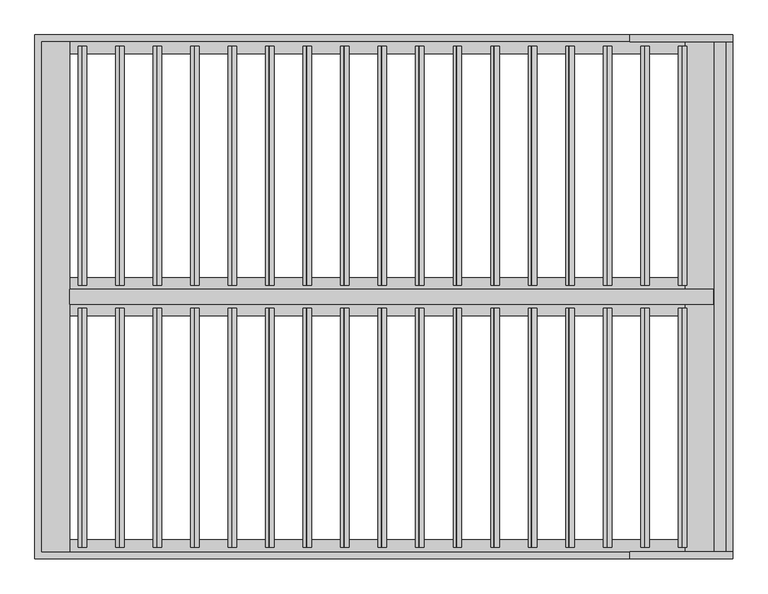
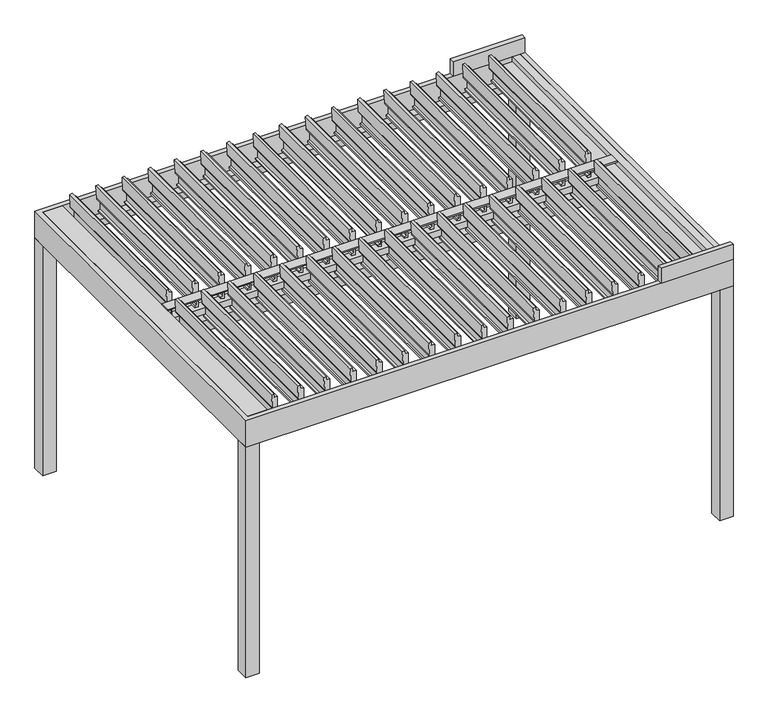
"""IFC4 building model written with IfcOpenShell, lengths in millimetres: proxy geometry, Renson_Algarve_Single Unit With Intermediate Beam : Algarve - Single Unit With Intermediate Beam."""

from ifc_helpers import new_model, si_unit, point, frame, frame_2d, origin, origin_with_axes, place, context, project, spatial, polyline, circle_curve, trimmed, segment, composite_curve, outline, extrude, faceted_brep, source, transform, mapped, element, save


def generic_models_74493efa(model_context):
    return source(origin(), model_context, "Body", "SolidModel", [
        extrude(outline(composite_curve([segment(polyline([(2299.449345, 1521.8120717), (2301.8694547, 1494.1500918), (2330.7047051, 1492.7650354), (2327.2673741, 1473.2709621), (2217.2702592, 1478.5545024)]), True, "CONTINUOUS"), segment(trimmed(circle_curve(frame_2d((2217.9899311, 1493.5372282)), 15.0), [point((2217.2702592, 1478.5545024))], [point((2203.2178148, 1490.9325056))], False, "CARTESIAN"), True, "CONTINUOUS"), segment(polyline([(2203.2178148, 1490.9325056), (2199.8271235, 1510.1620717), (2112.0913475, 1510.1620717), (2109.0798901, 1493.083248), (2093.8029196, 1493.8170536), (2091.3536729, 1521.8120717), (2299.449345, 1521.8120717)]), True, "CONTINUOUS")], self_intersect=False)), frame((0.0, -2185.0, 0.0), z_axis=(0.0, 1.0, 0.0), x_axis=(0.0, 0.0, 1.0)), (0.0, 0.0, 1.0), 1370.0),
        extrude(outline(composite_curve([segment(polyline([(2299.449345, 1306.8012669), (2301.8694547, 1279.139287), (2330.7047051, 1277.7542306), (2327.2673741, 1258.2601573), (2217.2702592, 1263.5436977)]), True, "CONTINUOUS"), segment(trimmed(circle_curve(frame_2d((2217.9899311, 1278.5264234)), 15.0), [point((2217.2702592, 1263.5436977))], [point((2203.2178148, 1275.9217008))], False, "CARTESIAN"), True, "CONTINUOUS"), segment(polyline([(2203.2178148, 1275.9217008), (2199.8271235, 1295.1512669), (2112.0913475, 1295.1512669), (2109.0798901, 1278.0724433), (2093.8029196, 1278.8062488), (2091.3536729, 1306.8012669), (2299.449345, 1306.8012669)]), True, "CONTINUOUS")], self_intersect=False)), frame((0.0, -2185.0, 0.0), z_axis=(0.0, 1.0, 0.0), x_axis=(0.0, 0.0, 1.0)), (0.0, 0.0, 1.0), 1370.0),
        extrude(outline(composite_curve([segment(polyline([(2299.449345, 1091.7904622), (2301.8694547, 1064.1284822), (2330.7047051, 1062.7434258), (2327.2673741, 1043.2493526), (2217.2702592, 1048.5328929)]), True, "CONTINUOUS"), segment(trimmed(circle_curve(frame_2d((2217.9899311, 1063.5156187)), 15.0), [point((2217.2702592, 1048.5328929))], [point((2203.2178148, 1060.910896))], False, "CARTESIAN"), True, "CONTINUOUS"), segment(polyline([(2203.2178148, 1060.910896), (2199.8271235, 1080.1404622), (2112.0913475, 1080.1404622), (2109.0798901, 1063.0616385), (2093.8029196, 1063.795444), (2091.3536729, 1091.7904622), (2299.449345, 1091.7904622)]), True, "CONTINUOUS")], self_intersect=False)), frame((0.0, -2185.0, 0.0), z_axis=(0.0, 1.0, 0.0), x_axis=(0.0, 0.0, 1.0)), (0.0, 0.0, 1.0), 1370.0),
        extrude(outline(composite_curve([segment(polyline([(2299.449345, 876.7796574), (2301.8694547, 849.1176774), (2330.7047051, 847.732621), (2327.2673741, 828.2385478), (2217.2702592, 833.5220881)]), True, "CONTINUOUS"), segment(trimmed(circle_curve(frame_2d((2217.9899311, 848.5048139)), 15.0), [point((2217.2702592, 833.5220881))], [point((2203.2178148, 845.9000912))], False, "CARTESIAN"), True, "CONTINUOUS"), segment(polyline([(2203.2178148, 845.9000912), (2199.8271235, 865.1296574), (2112.0913475, 865.1296574), (2109.0798901, 848.0508337), (2093.8029196, 848.7846392), (2091.3536729, 876.7796574), (2299.449345, 876.7796574)]), True, "CONTINUOUS")], self_intersect=False)), frame((0.0, -2185.0, 0.0), z_axis=(0.0, 1.0, 0.0), x_axis=(0.0, 0.0, 1.0)), (0.0, 0.0, 1.0), 1370.0),
        extrude(outline(composite_curve([segment(polyline([(2299.449345, 661.7688526), (2301.8694547, 634.1068726), (2330.7047051, 632.7218162), (2327.2673741, 613.227743), (2217.2702592, 618.5112833)]), True, "CONTINUOUS"), segment(trimmed(circle_curve(frame_2d((2217.9899311, 633.4940091)), 15.0), [point((2217.2702592, 618.5112833))], [point((2203.2178148, 630.8892864))], False, "CARTESIAN"), True, "CONTINUOUS"), segment(polyline([(2203.2178148, 630.8892864), (2199.8271235, 650.1188526), (2112.0913475, 650.1188526), (2109.0798901, 633.0400289), (2093.8029196, 633.7738344), (2091.3536729, 661.7688526), (2299.449345, 661.7688526)]), True, "CONTINUOUS")], self_intersect=False)), frame((0.0, -2185.0, 0.0), z_axis=(0.0, 1.0, 0.0), x_axis=(0.0, 0.0, 1.0)), (0.0, 0.0, 1.0), 1370.0),
        extrude(outline(composite_curve([segment(polyline([(2299.449345, 446.7580478), (2301.8694547, 419.0960679), (2330.7047051, 417.7110115), (2327.2673741, 398.2169382), (2217.2702592, 403.5004785)]), True, "CONTINUOUS"), segment(trimmed(circle_curve(frame_2d((2217.9899311, 418.4832043)), 15.0), [point((2217.2702592, 403.5004785))], [point((2203.2178148, 415.8784817))], False, "CARTESIAN"), True, "CONTINUOUS"), segment(polyline([(2203.2178148, 415.8784817), (2199.8271235, 435.1080478), (2112.0913475, 435.1080478), (2109.0798901, 418.0292241), (2093.8029196, 418.7630297), (2091.3536729, 446.7580478), (2299.449345, 446.7580478)]), True, "CONTINUOUS")], self_intersect=False)), frame((0.0, -2185.0, 0.0), z_axis=(0.0, 1.0, 0.0), x_axis=(0.0, 0.0, 1.0)), (0.0, 0.0, 1.0), 1370.0),
        extrude(outline(composite_curve([segment(polyline([(2299.449345, 231.747243), (2301.8694547, 204.0852631), (2330.7047051, 202.7002067), (2327.2673741, 183.2061334), (2217.2702592, 188.4896737)]), True, "CONTINUOUS"), segment(trimmed(circle_curve(frame_2d((2217.9899311, 203.4723995)), 15.0), [point((2217.2702592, 188.4896737))], [point((2203.2178148, 200.8676769))], False, "CARTESIAN"), True, "CONTINUOUS"), segment(polyline([(2203.2178148, 200.8676769), (2199.8271235, 220.097243), (2112.0913475, 220.097243), (2109.0798901, 203.0184194), (2093.8029196, 203.7522249), (2091.3536729, 231.747243), (2299.449345, 231.747243)]), True, "CONTINUOUS")], self_intersect=False)), frame((0.0, -2185.0, 0.0), z_axis=(0.0, 1.0, 0.0), x_axis=(0.0, 0.0, 1.0)), (0.0, 0.0, 1.0), 1370.0),
        extrude(outline(composite_curve([segment(polyline([(2299.449345, 16.7364383), (2301.8694547, -10.9255417), (2330.7047051, -12.3105981), (2327.2673741, -31.8046713), (2217.2702592, -26.521131)]), True, "CONTINUOUS"), segment(trimmed(circle_curve(frame_2d((2217.9899311, -11.5384052)), 15.0), [point((2217.2702592, -26.521131))], [point((2203.2178148, -14.1431279))], False, "CARTESIAN"), True, "CONTINUOUS"), segment(polyline([(2203.2178148, -14.1431279), (2199.8271235, 5.0864383), (2112.0913475, 5.0864383), (2109.0798901, -11.9923854), (2093.8029196, -11.2585799), (2091.3536729, 16.7364383), (2299.449345, 16.7364383)]), True, "CONTINUOUS")], self_intersect=False)), frame((0.0, -2185.0, 0.0), z_axis=(0.0, 1.0, 0.0), x_axis=(0.0, 0.0, 1.0)), (0.0, 0.0, 1.0), 1370.0),
        extrude(outline(composite_curve([segment(polyline([(2299.449345, -198.2743665), (2301.8694547, -225.9363465), (2330.7047051, -227.3214029), (2327.2673741, -246.8154761), (2217.2702592, -241.5319358)]), True, "CONTINUOUS"), segment(trimmed(circle_curve(frame_2d((2217.9899311, -226.54921)), 15.0), [point((2217.2702592, -241.5319358))], [point((2203.2178148, -229.1539327))], False, "CARTESIAN"), True, "CONTINUOUS"), segment(polyline([(2203.2178148, -229.1539327), (2199.8271235, -209.9243665), (2112.0913475, -209.9243665), (2109.0798901, -227.0031902), (2093.8029196, -226.2693847), (2091.3536729, -198.2743665), (2299.449345, -198.2743665)]), True, "CONTINUOUS")], self_intersect=False)), frame((0.0, -2185.0, 0.0), z_axis=(0.0, 1.0, 0.0), x_axis=(0.0, 0.0, 1.0)), (0.0, 0.0, 1.0), 1370.0),
        extrude(outline(composite_curve([segment(polyline([(2299.449345, -413.2851713), (2301.8694547, -440.9471513), (2330.7047051, -442.3322077), (2327.2673741, -461.8262809), (2217.2702592, -456.5427406)]), True, "CONTINUOUS"), segment(trimmed(circle_curve(frame_2d((2217.9899311, -441.5600148)), 15.0), [point((2217.2702592, -456.5427406))], [point((2203.2178148, -444.1647375))], False, "CARTESIAN"), True, "CONTINUOUS"), segment(polyline([(2203.2178148, -444.1647375), (2199.8271235, -424.9351713), (2112.0913475, -424.9351713), (2109.0798901, -442.013995), (2093.8029196, -441.2801895), (2091.3536729, -413.2851713), (2299.449345, -413.2851713)]), True, "CONTINUOUS")], self_intersect=False)), frame((0.0, -2185.0, 0.0), z_axis=(0.0, 1.0, 0.0), x_axis=(0.0, 0.0, 1.0)), (0.0, 0.0, 1.0), 1370.0),
        extrude(outline(composite_curve([segment(polyline([(2299.449345, -628.2959761), (2301.8694547, -655.9579561), (2330.7047051, -657.3430125), (2327.2673741, -676.8370857), (2217.2702592, -671.5535454)]), True, "CONTINUOUS"), segment(trimmed(circle_curve(frame_2d((2217.9899311, -656.5708196)), 15.0), [point((2217.2702592, -671.5535454))], [point((2203.2178148, -659.1755423))], False, "CARTESIAN"), True, "CONTINUOUS"), segment(polyline([(2203.2178148, -659.1755423), (2199.8271235, -639.9459761), (2112.0913475, -639.9459761), (2109.0798901, -657.0247998), (2093.8029196, -656.2909943), (2091.3536729, -628.2959761), (2299.449345, -628.2959761)]), True, "CONTINUOUS")], self_intersect=False)), frame((0.0, -2185.0, 0.0), z_axis=(0.0, 1.0, 0.0), x_axis=(0.0, 0.0, 1.0)), (0.0, 0.0, 1.0), 1370.0),
        extrude(outline(composite_curve([segment(polyline([(2299.449345, -843.3067809), (2301.8694547, -870.9687608), (2330.7047051, -872.3538172), (2327.2673741, -891.8478905), (2217.2702592, -886.5643502)]), True, "CONTINUOUS"), segment(trimmed(circle_curve(frame_2d((2217.9899311, -871.5816244)), 15.0), [point((2217.2702592, -886.5643502))], [point((2203.2178148, -874.186347))], False, "CARTESIAN"), True, "CONTINUOUS"), segment(polyline([(2203.2178148, -874.186347), (2199.8271235, -854.9567809), (2112.0913475, -854.9567809), (2109.0798901, -872.0356046), (2093.8029196, -871.301799), (2091.3536729, -843.3067809), (2299.449345, -843.3067809)]), True, "CONTINUOUS")], self_intersect=False)), frame((0.0, -2185.0, 0.0), z_axis=(0.0, 1.0, 0.0), x_axis=(0.0, 0.0, 1.0)), (0.0, 0.0, 1.0), 1370.0),
        extrude(outline(composite_curve([segment(polyline([(2299.449345, -1058.3175857), (2301.8694547, -1085.9795656), (2330.7047051, -1087.364622), (2327.2673741, -1106.8586953), (2217.2702592, -1101.5751549)]), True, "CONTINUOUS"), segment(trimmed(circle_curve(frame_2d((2217.9899311, -1086.5924291)), 15.0), [point((2217.2702592, -1101.5751549))], [point((2203.2178148, -1089.1971518))], False, "CARTESIAN"), True, "CONTINUOUS"), segment(polyline([(2203.2178148, -1089.1971518), (2199.8271235, -1069.9675857), (2112.0913475, -1069.9675857), (2109.0798901, -1087.0464093), (2093.8029196, -1086.3126038), (2091.3536729, -1058.3175857), (2299.449345, -1058.3175857)]), True, "CONTINUOUS")], self_intersect=False)), frame((0.0, -2185.0, 0.0), z_axis=(0.0, 1.0, 0.0), x_axis=(0.0, 0.0, 1.0)), (0.0, 0.0, 1.0), 1370.0),
        extrude(outline(composite_curve([segment(polyline([(2299.449345, -1273.3283904), (2301.8694547, -1300.9903704), (2330.7047051, -1302.3754268), (2327.2673741, -1321.8695), (2217.2702592, -1316.5859597)]), True, "CONTINUOUS"), segment(trimmed(circle_curve(frame_2d((2217.9899311, -1301.6032339)), 15.0), [point((2217.2702592, -1316.5859597))], [point((2203.2178148, -1304.2079566))], False, "CARTESIAN"), True, "CONTINUOUS"), segment(polyline([(2203.2178148, -1304.2079566), (2199.8271235, -1284.9783904), (2112.0913475, -1284.9783904), (2109.0798901, -1302.0572141), (2093.8029196, -1301.3234086), (2091.3536729, -1273.3283904), (2299.449345, -1273.3283904)]), True, "CONTINUOUS")], self_intersect=False)), frame((0.0, -2185.0, 0.0), z_axis=(0.0, 1.0, 0.0), x_axis=(0.0, 0.0, 1.0)), (0.0, 0.0, 1.0), 1370.0),
        extrude(outline(composite_curve([segment(polyline([(2299.449345, -1488.3391952), (2301.8694547, -1516.0011752), (2330.7047051, -1517.3862316), (2327.2673741, -1536.8803048), (2217.2702592, -1531.5967645)]), True, "CONTINUOUS"), segment(trimmed(circle_curve(frame_2d((2217.9899311, -1516.6140387)), 15.0), [point((2217.2702592, -1531.5967645))], [point((2203.2178148, -1519.2187614))], False, "CARTESIAN"), True, "CONTINUOUS"), segment(polyline([(2203.2178148, -1519.2187614), (2199.8271235, -1499.9891952), (2112.0913475, -1499.9891952), (2109.0798901, -1517.0680189), (2093.8029196, -1516.3342134), (2091.3536729, -1488.3391952), (2299.449345, -1488.3391952)]), True, "CONTINUOUS")], self_intersect=False)), frame((0.0, -2185.0, 0.0), z_axis=(0.0, 1.0, 0.0), x_axis=(0.0, 0.0, 1.0)), (0.0, 0.0, 1.0), 1370.0),
        extrude(outline(composite_curve([segment(polyline([(2299.449345, 1736.8228765), (2301.8694547, 1709.1608965), (2330.7047051, 1707.7758401), (2327.2673741, 1688.2817669), (2217.2702592, 1693.5653072)]), True, "CONTINUOUS"), segment(trimmed(circle_curve(frame_2d((2217.9899311, 1708.548033)), 15.0), [point((2217.2702592, 1693.5653072))], [point((2203.2178148, 1705.9433103))], False, "CARTESIAN"), True, "CONTINUOUS"), segment(polyline([(2203.2178148, 1705.9433103), (2199.8271235, 1725.1728765), (2112.0913475, 1725.1728765), (2109.0798901, 1708.0940528), (2093.8029196, 1708.8278583), (2091.3536729, 1736.8228765), (2299.449345, 1736.8228765)]), True, "CONTINUOUS")], self_intersect=False)), frame((0.0, -2185.0, 0.0), z_axis=(0.0, 1.0, 0.0), x_axis=(0.0, 0.0, 1.0)), (0.0, 0.0, 1.0), 1370.0),
        extrude(outline(composite_curve([segment(polyline([(2299.449345, -1703.35), (2301.8694547, -1731.01198), (2330.7047051, -1732.3970364), (2327.2673741, -1751.8911096), (2217.2702592, -1746.6075693)]), True, "CONTINUOUS"), segment(trimmed(circle_curve(frame_2d((2217.9899311, -1731.6248435)), 15.0), [point((2217.2702592, -1746.6075693))], [point((2203.2178148, -1734.2295662))], False, "CARTESIAN"), True, "CONTINUOUS"), segment(polyline([(2203.2178148, -1734.2295662), (2199.8271235, -1715.0), (2112.0913475, -1715.0), (2109.0798901, -1732.0788237), (2093.8029196, -1731.3450182), (2091.3536729, -1703.35), (2299.449345, -1703.35)]), True, "CONTINUOUS")], self_intersect=False)), frame((0.0, -2185.0, 0.0), z_axis=(0.0, 1.0, 0.0), x_axis=(0.0, 0.0, 1.0)), (0.0, 0.0, 1.0), 1370.0),
        extrude(outline(composite_curve([segment(polyline([(2299.449345, 1521.8120717), (2301.8694547, 1494.1500918), (2330.7047051, 1492.7650354), (2327.2673741, 1473.2709621), (2217.2702592, 1478.5545024)]), True, "CONTINUOUS"), segment(trimmed(circle_curve(frame_2d((2217.9899311, 1493.5372282)), 15.0), [point((2217.2702592, 1478.5545024))], [point((2203.2178148, 1490.9325056))], False, "CARTESIAN"), True, "CONTINUOUS"), segment(polyline([(2203.2178148, 1490.9325056), (2199.8271235, 1510.1620717), (2112.0913475, 1510.1620717), (2109.0798901, 1493.083248), (2093.8029196, 1493.8170536), (2091.3536729, 1521.8120717), (2299.449345, 1521.8120717)]), True, "CONTINUOUS")], self_intersect=False)), frame((0.0, -685.0, 0.0), z_axis=(0.0, 1.0, 0.0), x_axis=(0.0, 0.0, 1.0)), (0.0, 0.0, 1.0), 1370.0),
        extrude(outline(composite_curve([segment(polyline([(2299.449345, 1306.8012669), (2301.8694547, 1279.139287), (2330.7047051, 1277.7542306), (2327.2673741, 1258.2601573), (2217.2702592, 1263.5436977)]), True, "CONTINUOUS"), segment(trimmed(circle_curve(frame_2d((2217.9899311, 1278.5264234)), 15.0), [point((2217.2702592, 1263.5436977))], [point((2203.2178148, 1275.9217008))], False, "CARTESIAN"), True, "CONTINUOUS"), segment(polyline([(2203.2178148, 1275.9217008), (2199.8271235, 1295.1512669), (2112.0913475, 1295.1512669), (2109.0798901, 1278.0724433), (2093.8029196, 1278.8062488), (2091.3536729, 1306.8012669), (2299.449345, 1306.8012669)]), True, "CONTINUOUS")], self_intersect=False)), frame((0.0, -685.0, 0.0), z_axis=(0.0, 1.0, 0.0), x_axis=(0.0, 0.0, 1.0)), (0.0, 0.0, 1.0), 1370.0),
        extrude(outline(composite_curve([segment(polyline([(2299.449345, 1091.7904622), (2301.8694547, 1064.1284822), (2330.7047051, 1062.7434258), (2327.2673741, 1043.2493526), (2217.2702592, 1048.5328929)]), True, "CONTINUOUS"), segment(trimmed(circle_curve(frame_2d((2217.9899311, 1063.5156187)), 15.0), [point((2217.2702592, 1048.5328929))], [point((2203.2178148, 1060.910896))], False, "CARTESIAN"), True, "CONTINUOUS"), segment(polyline([(2203.2178148, 1060.910896), (2199.8271235, 1080.1404622), (2112.0913475, 1080.1404622), (2109.0798901, 1063.0616385), (2093.8029196, 1063.795444), (2091.3536729, 1091.7904622), (2299.449345, 1091.7904622)]), True, "CONTINUOUS")], self_intersect=False)), frame((0.0, -685.0, 0.0), z_axis=(0.0, 1.0, 0.0), x_axis=(0.0, 0.0, 1.0)), (0.0, 0.0, 1.0), 1370.0),
        extrude(outline(composite_curve([segment(polyline([(2299.449345, 876.7796574), (2301.8694547, 849.1176774), (2330.7047051, 847.732621), (2327.2673741, 828.2385478), (2217.2702592, 833.5220881)]), True, "CONTINUOUS"), segment(trimmed(circle_curve(frame_2d((2217.9899311, 848.5048139)), 15.0), [point((2217.2702592, 833.5220881))], [point((2203.2178148, 845.9000912))], False, "CARTESIAN"), True, "CONTINUOUS"), segment(polyline([(2203.2178148, 845.9000912), (2199.8271235, 865.1296574), (2112.0913475, 865.1296574), (2109.0798901, 848.0508337), (2093.8029196, 848.7846392), (2091.3536729, 876.7796574), (2299.449345, 876.7796574)]), True, "CONTINUOUS")], self_intersect=False)), frame((0.0, -685.0, 0.0), z_axis=(0.0, 1.0, 0.0), x_axis=(0.0, 0.0, 1.0)), (0.0, 0.0, 1.0), 1370.0),
        extrude(outline(composite_curve([segment(polyline([(2299.449345, 661.7688526), (2301.8694547, 634.1068726), (2330.7047051, 632.7218162), (2327.2673741, 613.227743), (2217.2702592, 618.5112833)]), True, "CONTINUOUS"), segment(trimmed(circle_curve(frame_2d((2217.9899311, 633.4940091)), 15.0), [point((2217.2702592, 618.5112833))], [point((2203.2178148, 630.8892864))], False, "CARTESIAN"), True, "CONTINUOUS"), segment(polyline([(2203.2178148, 630.8892864), (2199.8271235, 650.1188526), (2112.0913475, 650.1188526), (2109.0798901, 633.0400289), (2093.8029196, 633.7738344), (2091.3536729, 661.7688526), (2299.449345, 661.7688526)]), True, "CONTINUOUS")], self_intersect=False)), frame((0.0, -685.0, 0.0), z_axis=(0.0, 1.0, 0.0), x_axis=(0.0, 0.0, 1.0)), (0.0, 0.0, 1.0), 1370.0),
        extrude(outline(composite_curve([segment(polyline([(2299.449345, 446.7580478), (2301.8694547, 419.0960679), (2330.7047051, 417.7110115), (2327.2673741, 398.2169382), (2217.2702592, 403.5004785)]), True, "CONTINUOUS"), segment(trimmed(circle_curve(frame_2d((2217.9899311, 418.4832043)), 15.0), [point((2217.2702592, 403.5004785))], [point((2203.2178148, 415.8784817))], False, "CARTESIAN"), True, "CONTINUOUS"), segment(polyline([(2203.2178148, 415.8784817), (2199.8271235, 435.1080478), (2112.0913475, 435.1080478), (2109.0798901, 418.0292241), (2093.8029196, 418.7630297), (2091.3536729, 446.7580478), (2299.449345, 446.7580478)]), True, "CONTINUOUS")], self_intersect=False)), frame((0.0, -685.0, 0.0), z_axis=(0.0, 1.0, 0.0), x_axis=(0.0, 0.0, 1.0)), (0.0, 0.0, 1.0), 1370.0),
        extrude(outline(composite_curve([segment(polyline([(2299.449345, 231.747243), (2301.8694547, 204.0852631), (2330.7047051, 202.7002067), (2327.2673741, 183.2061334), (2217.2702592, 188.4896737)]), True, "CONTINUOUS"), segment(trimmed(circle_curve(frame_2d((2217.9899311, 203.4723995)), 15.0), [point((2217.2702592, 188.4896737))], [point((2203.2178148, 200.8676769))], False, "CARTESIAN"), True, "CONTINUOUS"), segment(polyline([(2203.2178148, 200.8676769), (2199.8271235, 220.097243), (2112.0913475, 220.097243), (2109.0798901, 203.0184194), (2093.8029196, 203.7522249), (2091.3536729, 231.747243), (2299.449345, 231.747243)]), True, "CONTINUOUS")], self_intersect=False)), frame((0.0, -685.0, 0.0), z_axis=(0.0, 1.0, 0.0), x_axis=(0.0, 0.0, 1.0)), (0.0, 0.0, 1.0), 1370.0),
        extrude(outline(composite_curve([segment(polyline([(2299.449345, 16.7364383), (2301.8694547, -10.9255417), (2330.7047051, -12.3105981), (2327.2673741, -31.8046713), (2217.2702592, -26.521131)]), True, "CONTINUOUS"), segment(trimmed(circle_curve(frame_2d((2217.9899311, -11.5384052)), 15.0), [point((2217.2702592, -26.521131))], [point((2203.2178148, -14.1431279))], False, "CARTESIAN"), True, "CONTINUOUS"), segment(polyline([(2203.2178148, -14.1431279), (2199.8271235, 5.0864383), (2112.0913475, 5.0864383), (2109.0798901, -11.9923854), (2093.8029196, -11.2585799), (2091.3536729, 16.7364383), (2299.449345, 16.7364383)]), True, "CONTINUOUS")], self_intersect=False)), frame((0.0, -685.0, 0.0), z_axis=(0.0, 1.0, 0.0), x_axis=(0.0, 0.0, 1.0)), (0.0, 0.0, 1.0), 1370.0),
        extrude(outline(composite_curve([segment(polyline([(2299.449345, -198.2743665), (2301.8694547, -225.9363465), (2330.7047051, -227.3214029), (2327.2673741, -246.8154761), (2217.2702592, -241.5319358)]), True, "CONTINUOUS"), segment(trimmed(circle_curve(frame_2d((2217.9899311, -226.54921)), 15.0), [point((2217.2702592, -241.5319358))], [point((2203.2178148, -229.1539327))], False, "CARTESIAN"), True, "CONTINUOUS"), segment(polyline([(2203.2178148, -229.1539327), (2199.8271235, -209.9243665), (2112.0913475, -209.9243665), (2109.0798901, -227.0031902), (2093.8029196, -226.2693847), (2091.3536729, -198.2743665), (2299.449345, -198.2743665)]), True, "CONTINUOUS")], self_intersect=False)), frame((0.0, -685.0, 0.0), z_axis=(0.0, 1.0, 0.0), x_axis=(0.0, 0.0, 1.0)), (0.0, 0.0, 1.0), 1370.0),
        extrude(outline(composite_curve([segment(polyline([(2299.449345, -413.2851713), (2301.8694547, -440.9471513), (2330.7047051, -442.3322077), (2327.2673741, -461.8262809), (2217.2702592, -456.5427406)]), True, "CONTINUOUS"), segment(trimmed(circle_curve(frame_2d((2217.9899311, -441.5600148)), 15.0), [point((2217.2702592, -456.5427406))], [point((2203.2178148, -444.1647375))], False, "CARTESIAN"), True, "CONTINUOUS"), segment(polyline([(2203.2178148, -444.1647375), (2199.8271235, -424.9351713), (2112.0913475, -424.9351713), (2109.0798901, -442.013995), (2093.8029196, -441.2801895), (2091.3536729, -413.2851713), (2299.449345, -413.2851713)]), True, "CONTINUOUS")], self_intersect=False)), frame((0.0, -685.0, 0.0), z_axis=(0.0, 1.0, 0.0), x_axis=(0.0, 0.0, 1.0)), (0.0, 0.0, 1.0), 1370.0),
        extrude(outline(composite_curve([segment(polyline([(2299.449345, -628.2959761), (2301.8694547, -655.9579561), (2330.7047051, -657.3430125), (2327.2673741, -676.8370857), (2217.2702592, -671.5535454)]), True, "CONTINUOUS"), segment(trimmed(circle_curve(frame_2d((2217.9899311, -656.5708196)), 15.0), [point((2217.2702592, -671.5535454))], [point((2203.2178148, -659.1755423))], False, "CARTESIAN"), True, "CONTINUOUS"), segment(polyline([(2203.2178148, -659.1755423), (2199.8271235, -639.9459761), (2112.0913475, -639.9459761), (2109.0798901, -657.0247998), (2093.8029196, -656.2909943), (2091.3536729, -628.2959761), (2299.449345, -628.2959761)]), True, "CONTINUOUS")], self_intersect=False)), frame((0.0, -685.0, 0.0), z_axis=(0.0, 1.0, 0.0), x_axis=(0.0, 0.0, 1.0)), (0.0, 0.0, 1.0), 1370.0),
        extrude(outline(composite_curve([segment(polyline([(2299.449345, -843.3067809), (2301.8694547, -870.9687608), (2330.7047051, -872.3538172), (2327.2673741, -891.8478905), (2217.2702592, -886.5643502)]), True, "CONTINUOUS"), segment(trimmed(circle_curve(frame_2d((2217.9899311, -871.5816244)), 15.0), [point((2217.2702592, -886.5643502))], [point((2203.2178148, -874.186347))], False, "CARTESIAN"), True, "CONTINUOUS"), segment(polyline([(2203.2178148, -874.186347), (2199.8271235, -854.9567809), (2112.0913475, -854.9567809), (2109.0798901, -872.0356046), (2093.8029196, -871.301799), (2091.3536729, -843.3067809), (2299.449345, -843.3067809)]), True, "CONTINUOUS")], self_intersect=False)), frame((0.0, -685.0, 0.0), z_axis=(0.0, 1.0, 0.0), x_axis=(0.0, 0.0, 1.0)), (0.0, 0.0, 1.0), 1370.0),
        extrude(outline(composite_curve([segment(polyline([(2299.449345, -1058.3175857), (2301.8694547, -1085.9795656), (2330.7047051, -1087.364622), (2327.2673741, -1106.8586953), (2217.2702592, -1101.5751549)]), True, "CONTINUOUS"), segment(trimmed(circle_curve(frame_2d((2217.9899311, -1086.5924291)), 15.0), [point((2217.2702592, -1101.5751549))], [point((2203.2178148, -1089.1971518))], False, "CARTESIAN"), True, "CONTINUOUS"), segment(polyline([(2203.2178148, -1089.1971518), (2199.8271235, -1069.9675857), (2112.0913475, -1069.9675857), (2109.0798901, -1087.0464093), (2093.8029196, -1086.3126038), (2091.3536729, -1058.3175857), (2299.449345, -1058.3175857)]), True, "CONTINUOUS")], self_intersect=False)), frame((0.0, -685.0, 0.0), z_axis=(0.0, 1.0, 0.0), x_axis=(0.0, 0.0, 1.0)), (0.0, 0.0, 1.0), 1370.0),
        extrude(outline(composite_curve([segment(polyline([(2299.449345, -1273.3283904), (2301.8694547, -1300.9903704), (2330.7047051, -1302.3754268), (2327.2673741, -1321.8695), (2217.2702592, -1316.5859597)]), True, "CONTINUOUS"), segment(trimmed(circle_curve(frame_2d((2217.9899311, -1301.6032339)), 15.0), [point((2217.2702592, -1316.5859597))], [point((2203.2178148, -1304.2079566))], False, "CARTESIAN"), True, "CONTINUOUS"), segment(polyline([(2203.2178148, -1304.2079566), (2199.8271235, -1284.9783904), (2112.0913475, -1284.9783904), (2109.0798901, -1302.0572141), (2093.8029196, -1301.3234086), (2091.3536729, -1273.3283904), (2299.449345, -1273.3283904)]), True, "CONTINUOUS")], self_intersect=False)), frame((0.0, -685.0, 0.0), z_axis=(0.0, 1.0, 0.0), x_axis=(0.0, 0.0, 1.0)), (0.0, 0.0, 1.0), 1370.0),
        extrude(outline(composite_curve([segment(polyline([(2299.449345, -1488.3391952), (2301.8694547, -1516.0011752), (2330.7047051, -1517.3862316), (2327.2673741, -1536.8803048), (2217.2702592, -1531.5967645)]), True, "CONTINUOUS"), segment(trimmed(circle_curve(frame_2d((2217.9899311, -1516.6140387)), 15.0), [point((2217.2702592, -1531.5967645))], [point((2203.2178148, -1519.2187614))], False, "CARTESIAN"), True, "CONTINUOUS"), segment(polyline([(2203.2178148, -1519.2187614), (2199.8271235, -1499.9891952), (2112.0913475, -1499.9891952), (2109.0798901, -1517.0680189), (2093.8029196, -1516.3342134), (2091.3536729, -1488.3391952), (2299.449345, -1488.3391952)]), True, "CONTINUOUS")], self_intersect=False)), frame((0.0, -685.0, 0.0), z_axis=(0.0, 1.0, 0.0), x_axis=(0.0, 0.0, 1.0)), (0.0, 0.0, 1.0), 1370.0),
        extrude(outline(composite_curve([segment(polyline([(2299.449345, 1736.8228765), (2301.8694547, 1709.1608965), (2330.7047051, 1707.7758401), (2327.2673741, 1688.2817669), (2217.2702592, 1693.5653072)]), True, "CONTINUOUS"), segment(trimmed(circle_curve(frame_2d((2217.9899311, 1708.548033)), 15.0), [point((2217.2702592, 1693.5653072))], [point((2203.2178148, 1705.9433103))], False, "CARTESIAN"), True, "CONTINUOUS"), segment(polyline([(2203.2178148, 1705.9433103), (2199.8271235, 1725.1728765), (2112.0913475, 1725.1728765), (2109.0798901, 1708.0940528), (2093.8029196, 1708.8278583), (2091.3536729, 1736.8228765), (2299.449345, 1736.8228765)]), True, "CONTINUOUS")], self_intersect=False)), frame((0.0, -685.0, 0.0), z_axis=(0.0, 1.0, 0.0), x_axis=(0.0, 0.0, 1.0)), (0.0, 0.0, 1.0), 1370.0),
        extrude(outline(composite_curve([segment(polyline([(2299.449345, -1703.35), (2301.8694547, -1731.01198), (2330.7047051, -1732.3970364), (2327.2673741, -1751.8911096), (2217.2702592, -1746.6075693)]), True, "CONTINUOUS"), segment(trimmed(circle_curve(frame_2d((2217.9899311, -1731.6248435)), 15.0), [point((2217.2702592, -1746.6075693))], [point((2203.2178148, -1734.2295662))], False, "CARTESIAN"), True, "CONTINUOUS"), segment(polyline([(2203.2178148, -1734.2295662), (2199.8271235, -1715.0), (2112.0913475, -1715.0), (2109.0798901, -1732.0788237), (2093.8029196, -1731.3450182), (2091.3536729, -1703.35), (2299.449345, -1703.35)]), True, "CONTINUOUS")], self_intersect=False)), frame((0.0, -685.0, 0.0), z_axis=(0.0, 1.0, 0.0), x_axis=(0.0, 0.0, 1.0)), (0.0, 0.0, 1.0), 1370.0),
        extrude(outline(polyline([(2168.0, 1960.0), (2230.0, 1960.0), (2230.0, 1896.0), (2188.0, 1896.0), (2188.0, 1730.0), (2168.0, 1730.0), (2168.0, 1960.0)])), frame((0.0, -2210.0, 0.0), z_axis=(0.0, 1.0, 0.0), x_axis=(0.0, 0.0, 1.0)), (0.0, 0.0, 1.0), 2920.0),
        extrude(outline(polyline([(2230.0, -1800.0), (2230.0, -1960.0), (2186.0, -1960.0), (2186.0, -1827.3193336), (2219.1716603, -1824.4171894), (2220.344502, -1800.0), (2230.0, -1800.0)])), frame((0.0, -2210.0, 0.0), z_axis=(0.0, 1.0, 0.0), x_axis=(0.0, 0.0, 1.0)), (0.0, 0.0, 1.0), 2920.0),
        extrude(outline(polyline([(2000.0, -2210.0), (2000.0, -2250.0), (1410.0, -2250.0), (1410.0, -2210.0), (2000.0, -2210.0)])), frame((0.0, 0.0, 2230.0), z_axis=(0.0, 0.0, 1.0), x_axis=(1.0, 0.0, 0.0)), (0.0, 0.0, 1.0), 130.0),
        extrude(outline(polyline([(1890.0, -713.0), (-1890.0, -713.0), (-1890.0, -640.0), (1890.0, -640.0), (1890.0, -713.0)])), frame((0.0, 0.0, 2000.0), z_axis=(0.0, 0.0, 1.0), x_axis=(1.0, 0.0, 0.0)), (0.0, 0.0, 1.0), 90.0),
        extrude(outline(polyline([(1890.0, -787.0), (1890.0, -860.0), (-1890.0, -860.0), (-1890.0, -787.0), (1890.0, -787.0)])), frame((0.0, 0.0, 2000.0), z_axis=(0.0, 0.0, 1.0), x_axis=(1.0, 0.0, 0.0)), (0.0, 0.0, 1.0), 90.0),
        extrude(outline(polyline([(1890.0, -707.5), (1890.0, -792.5), (-1800.0, -792.5), (-1800.0, -707.5), (1890.0, -707.5)])), frame((0.0, 0.0, 2230.0), z_axis=(0.0, 0.0, 1.0), x_axis=(1.0, 0.0, 0.0)), (0.0, 0.0, 1.0), 10.0),
        faceted_brep([(1890.0, 640.0, 2057.0), (1890.0, 640.0, 2000.0), (1890.0, -2140.0, 2000.0), (1890.0, -2140.0, 2057.0), (2000.0, 750.0, 2000.0), (2000.0, 750.0, 2230.0), (2000.0, -2250.0, 2230.0), (2000.0, -2250.0, 2000.0), (1960.0, 710.0, 2230.0), (1960.0, 710.0, 2057.0), (1960.0, -2210.0, 2057.0), (1960.0, -2210.0, 2230.0), (-1890.0, -2140.0, 2000.0), (-1890.0, -2140.0, 2057.0), (-2000.0, -2250.0, 2230.0), (-2000.0, -2250.0, 2000.0), (-1960.0, -2210.0, 2057.0), (-1960.0, -2210.0, 2230.0), (-1890.0, 640.0, 2000.0), (-1890.0, 640.0, 2057.0), (-2000.0, 750.0, 2230.0), (-2000.0, 750.0, 2000.0), (-1960.0, 710.0, 2057.0), (-1960.0, 710.0, 2230.0)], [[[0, 1, 2, 3]], [[4, 5, 6, 7]], [[8, 9, 10, 11]], [[3, 2, 12, 13]], [[7, 6, 14, 15]], [[11, 10, 16, 17]], [[13, 12, 18, 19]], [[15, 14, 20, 21]], [[17, 16, 22, 23]], [[9, 22, 16, 10], [3, 13, 19, 0]], [[19, 18, 1, 0]], [[7, 15, 21, 4], [1, 18, 12, 2]], [[21, 20, 5, 4]], [[5, 20, 14, 6], [11, 17, 23, 8]], [[23, 22, 9, 8]]]),
        extrude(outline(polyline([(2000.0, 750.0), (2000.0, 640.0), (1890.0, 640.0), (1890.0, 750.0), (2000.0, 750.0)])), origin_with_axes(), (0.0, 0.0, 1.0), 2000.0),
        extrude(outline(polyline([(2000.0, -2140.0), (2000.0, -2250.0), (1890.0, -2250.0), (1890.0, -2140.0), (2000.0, -2140.0)])), origin_with_axes(), (0.0, 0.0, 1.0), 2000.0),
        extrude(outline(polyline([(-1890.0, -2140.0), (-1890.0, -2250.0), (-2000.0, -2250.0), (-2000.0, -2140.0), (-1890.0, -2140.0)])), origin_with_axes(), (0.0, 0.0, 1.0), 2000.0),
        extrude(outline(polyline([(-1890.0, 750.0), (-1890.0, 640.0), (-2000.0, 640.0), (-2000.0, 750.0), (-1890.0, 750.0)])), origin_with_axes(), (0.0, 0.0, 1.0), 2000.0),
        extrude(outline(polyline([(2000.0, 750.0), (2000.0, 710.0), (1410.0, 710.0), (1410.0, 750.0), (2000.0, 750.0)])), frame((0.0, 0.0, 2230.0), z_axis=(0.0, 0.0, 1.0), x_axis=(1.0, 0.0, 0.0)), (0.0, 0.0, 1.0), 130.0),
    ])


if __name__ == "__main__":
    model = new_model("IFC4")
    model_context = context("Model", 3, world=origin())
    ifc_project = project(units=[si_unit("LENGTHUNIT", "METRE", prefix="MILLI")], contexts=[model_context])
    site = spatial("IfcSite", under=ifc_project)
    building = spatial("IfcBuilding", under=site)
    placement = place(None, origin())
    generic_models_shape = generic_models_74493efa(model_context)
    element("IfcBuildingElementProxy", 1, Name="Renson_Algarve_Single Unit With Intermediate Beam : Algarve - Single Unit With Intermediate Beam", ObjectType="Renson_Algarve_Single Unit With Intermediate Beam : Algarve - Single Unit With Intermediate Beam", at=placement, inside=building, context=model_context, shape_type="MappedRepresentation", body=[
        mapped(generic_models_shape, transform((0.0, 0.0, 0.0), x_axis=(1.0, 0.0, 0.0), y_axis=(0.0, 1.0, 0.0), z_axis=(0.0, 0.0, 1.0))),
    ])
    save(model, "model.ifc")
